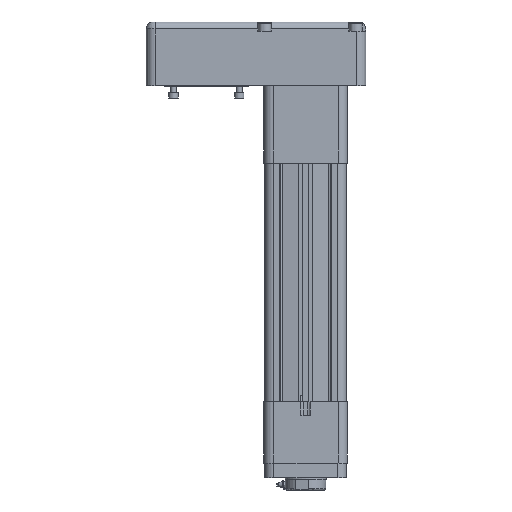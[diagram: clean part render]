
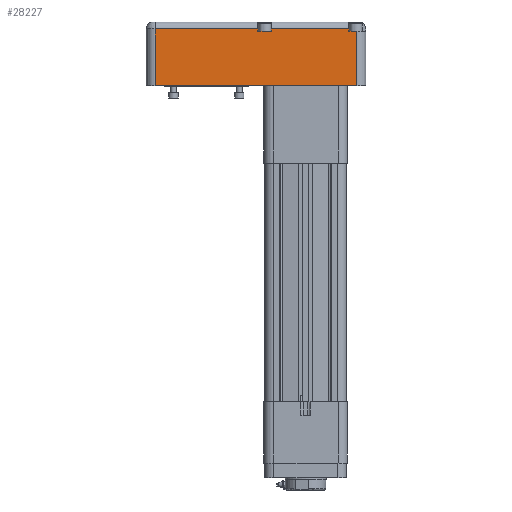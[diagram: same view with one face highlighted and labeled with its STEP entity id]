
A CAD part, left-side view. The second image highlights one B-rep face of the part: STEP entity #28227.
In plain terms, the highlighted planar face has unit normal (-1, 0, 0).
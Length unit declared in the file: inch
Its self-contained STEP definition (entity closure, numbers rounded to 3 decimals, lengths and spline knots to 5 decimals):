
#238 = CARTESIAN_POINT ( 'NONE',  ( -3.4375, -2.37402, 7.23 ) ) ;
#415 = PLANE ( 'NONE',  #24930 ) ;
#847 = EDGE_CURVE ( 'NONE', #39061, #42199, #11160, .T. ) ;
#1209 = EDGE_CURVE ( 'NONE', #6897, #37451, #3095, .T. ) ;
#2092 = EDGE_CURVE ( 'NONE', #6897, #22570, #21295, .T. ) ;
#3095 = LINE ( 'NONE', #29539, #18016 ) ;
#3526 = DIRECTION ( 'NONE',  ( 0., -1., 0. ) ) ;
#4698 = CARTESIAN_POINT ( 'NONE',  ( -3.4375, 8.25, 7.75 ) ) ;
#4707 = VECTOR ( 'NONE', #36332, 39.37008 ) ;
#6425 = LINE ( 'NONE', #32242, #4707 ) ;
#6892 = CARTESIAN_POINT ( 'NONE',  ( -3.4375, -2.8, 7.23 ) ) ;
#6897 = VERTEX_POINT ( 'NONE', #16340 ) ;
#7590 = FACE_OUTER_BOUND ( 'NONE', #26997, .T. ) ;
#8299 = VERTEX_POINT ( 'NONE', #39773 ) ;
#8443 = CARTESIAN_POINT ( 'NONE',  ( -3.4375, 1.87402, 7.37 ) ) ;
#9306 = ORIENTED_EDGE ( 'NONE', *, *, #40951, .F. ) ;
#10593 = DIRECTION ( 'NONE',  ( 0., 0., -1. ) ) ;
#10827 = DIRECTION ( 'NONE',  ( 0., 1., 0. ) ) ;
#11160 = LINE ( 'NONE', #24388, #13861 ) ;
#11619 = CARTESIAN_POINT ( 'NONE',  ( -3.4375, -2.37402, 7.37 ) ) ;
#11704 = VERTEX_POINT ( 'NONE', #19464 ) ;
#12114 = ORIENTED_EDGE ( 'NONE', *, *, #12730, .T. ) ;
#12730 = EDGE_CURVE ( 'NONE', #8299, #23098, #40745, .T. ) ;
#13045 = ORIENTED_EDGE ( 'NONE', *, *, #30917, .T. ) ;
#13075 = ORIENTED_EDGE ( 'NONE', *, *, #847, .T. ) ;
#13861 = VECTOR ( 'NONE', #24174, 39.37008 ) ;
#13956 = ORIENTED_EDGE ( 'NONE', *, *, #1209, .F. ) ;
#14012 = LINE ( 'NONE', #4698, #30000 ) ;
#14847 = CARTESIAN_POINT ( 'NONE',  ( -3.4375, 1.87402, 7.23 ) ) ;
#15293 = VECTOR ( 'NONE', #18636, 39.37008 ) ;
#15806 = CARTESIAN_POINT ( 'NONE',  ( -3.4375, 8.75, 4.25 ) ) ;
#16227 = ORIENTED_EDGE ( 'NONE', *, *, #18965, .T. ) ;
#16340 = CARTESIAN_POINT ( 'NONE',  ( -3.4375, 2.62598, 7.23 ) ) ;
#17164 = ORIENTED_EDGE ( 'NONE', *, *, #25795, .T. ) ;
#18016 = VECTOR ( 'NONE', #42746, 39.37008 ) ;
#18636 = DIRECTION ( 'NONE',  ( 0., -1., 0. ) ) ;
#18965 = EDGE_CURVE ( 'NONE', #22570, #33582, #6425, .T. ) ;
#19464 = CARTESIAN_POINT ( 'NONE',  ( -3.4375, 8.25, 4.25 ) ) ;
#20128 = CARTESIAN_POINT ( 'NONE',  ( -3.4375, -2.37402, 7.75 ) ) ;
#21176 = VECTOR ( 'NONE', #42121, 39.37008 ) ;
#21295 = LINE ( 'NONE', #31055, #38775 ) ;
#22570 = VERTEX_POINT ( 'NONE', #28296 ) ;
#23098 = VERTEX_POINT ( 'NONE', #6892 ) ;
#23839 = VECTOR ( 'NONE', #30778, 39.37008 ) ;
#24174 = DIRECTION ( 'NONE',  ( 0., 1., 0. ) ) ;
#24388 = CARTESIAN_POINT ( 'NONE',  ( -3.4375, 8.25, 7.37 ) ) ;
#24482 = CARTESIAN_POINT ( 'NONE',  ( -3.4375, 8.75, 5. ) ) ;
#24544 = DIRECTION ( 'NONE',  ( 0., 0., 1. ) ) ;
#24930 = AXIS2_PLACEMENT_3D ( 'NONE', #24482, #40312, #10827 ) ;
#25037 = EDGE_CURVE ( 'NONE', #37834, #23098, #35070, .T. ) ;
#25225 = CARTESIAN_POINT ( 'NONE',  ( -3.4375, 1.87402, 6.07553 ) ) ;
#25371 = LINE ( 'NONE', #15806, #15293 ) ;
#25795 = EDGE_CURVE ( 'NONE', #33582, #11704, #14012, .T. ) ;
#26312 = VECTOR ( 'NONE', #3526, 39.37008 ) ;
#26997 = EDGE_LOOP ( 'NONE', ( #17164, #13045, #12114, #35536, #9306, #13075, #31984, #13956, #30955, #16227 ) ) ;
#27519 = EDGE_CURVE ( 'NONE', #37451, #42199, #32373, .T. ) ;
#28227 = ADVANCED_FACE ( 'NONE', ( #7590 ), #415, .F. ) ;
#28296 = CARTESIAN_POINT ( 'NONE',  ( -3.4375, 2.62598, 7.37 ) ) ;
#28875 = CARTESIAN_POINT ( 'NONE',  ( -3.4375, 8.25, 7.37 ) ) ;
#29539 = CARTESIAN_POINT ( 'NONE',  ( -3.4375, 2.62598, 7.23 ) ) ;
#30000 = VECTOR ( 'NONE', #41317, 39.37008 ) ;
#30778 = DIRECTION ( 'NONE',  ( 0., 0., 1. ) ) ;
#30917 = EDGE_CURVE ( 'NONE', #11704, #8299, #25371, .T. ) ;
#30955 = ORIENTED_EDGE ( 'NONE', *, *, #2092, .T. ) ;
#31055 = CARTESIAN_POINT ( 'NONE',  ( -3.4375, 2.62598, 6.07553 ) ) ;
#31984 = ORIENTED_EDGE ( 'NONE', *, *, #27519, .F. ) ;
#32242 = CARTESIAN_POINT ( 'NONE',  ( -3.4375, 8.25, 7.37 ) ) ;
#32373 = LINE ( 'NONE', #25225, #21176 ) ;
#33489 = VECTOR ( 'NONE', #10593, 39.37008 ) ;
#33582 = VERTEX_POINT ( 'NONE', #28875 ) ;
#34774 = CARTESIAN_POINT ( 'NONE',  ( -3.4375, -2.37402, 7.23 ) ) ;
#35070 = LINE ( 'NONE', #238, #26312 ) ;
#35074 = CARTESIAN_POINT ( 'NONE',  ( -3.4375, -2.8, 7.75 ) ) ;
#35536 = ORIENTED_EDGE ( 'NONE', *, *, #25037, .F. ) ;
#36332 = DIRECTION ( 'NONE',  ( 0., 1., 0. ) ) ;
#37041 = LINE ( 'NONE', #20128, #33489 ) ;
#37451 = VERTEX_POINT ( 'NONE', #14847 ) ;
#37834 = VERTEX_POINT ( 'NONE', #34774 ) ;
#38775 = VECTOR ( 'NONE', #24544, 39.37008 ) ;
#39061 = VERTEX_POINT ( 'NONE', #11619 ) ;
#39773 = CARTESIAN_POINT ( 'NONE',  ( -3.4375, -2.8, 4.25 ) ) ;
#40312 = DIRECTION ( 'NONE',  ( 1., 0., 0. ) ) ;
#40745 = LINE ( 'NONE', #35074, #23839 ) ;
#40951 = EDGE_CURVE ( 'NONE', #39061, #37834, #37041, .T. ) ;
#41317 = DIRECTION ( 'NONE',  ( 0., 0., -1. ) ) ;
#42121 = DIRECTION ( 'NONE',  ( 0., 0., 1. ) ) ;
#42199 = VERTEX_POINT ( 'NONE', #8443 ) ;
#42746 = DIRECTION ( 'NONE',  ( 0., -1., 0. ) ) ;
